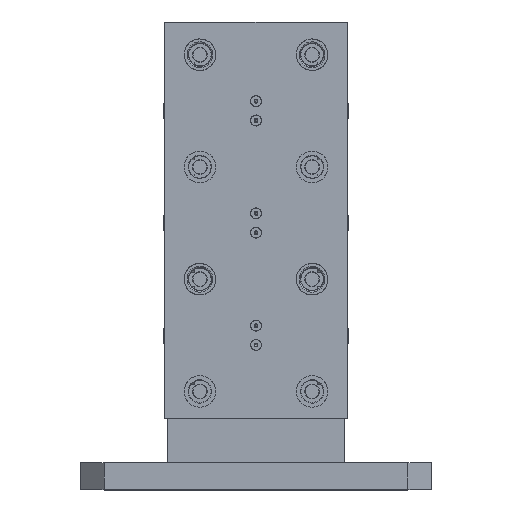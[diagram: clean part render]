
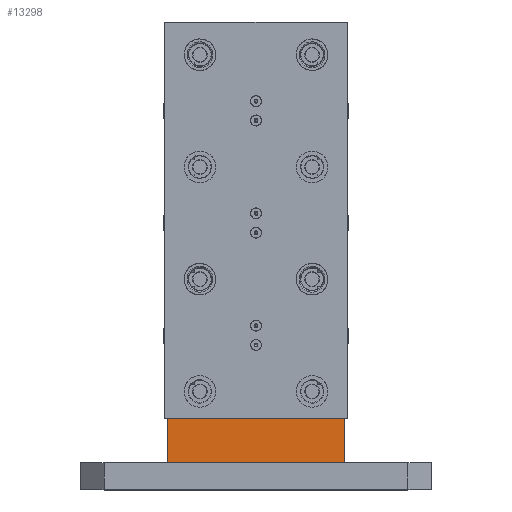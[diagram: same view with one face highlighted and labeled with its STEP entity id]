
A CAD part, top view. The second image highlights one B-rep face of the part: STEP entity #13298.
In plain terms, the highlighted planar face has unit normal (0, 0, 1).
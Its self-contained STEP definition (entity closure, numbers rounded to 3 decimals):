
#1751 = VECTOR ( 'NONE', #12497, 1000. ) ;
#2017 = EDGE_CURVE ( 'NONE', #6865, #3129, #19777, .T. ) ;
#2859 = CARTESIAN_POINT ( 'NONE',  ( 75.968, 0., 47.968 ) ) ;
#3129 = VERTEX_POINT ( 'NONE', #12748 ) ;
#3202 = ORIENTED_EDGE ( 'NONE', *, *, #6794, .F. ) ;
#4291 = ORIENTED_EDGE ( 'NONE', *, *, #12638, .F. ) ;
#5950 = CARTESIAN_POINT ( 'NONE',  ( 75.968, 38.1, 47.968 ) ) ;
#6794 = EDGE_CURVE ( 'NONE', #6865, #8107, #11727, .T. ) ;
#6865 = VERTEX_POINT ( 'NONE', #10806 ) ;
#8107 = VERTEX_POINT ( 'NONE', #2859 ) ;
#8999 = DIRECTION ( 'NONE',  ( 1., 0., 0. ) ) ;
#9531 = EDGE_CURVE ( 'NONE', #3129, #15419, #17078, .T. ) ;
#10155 = VECTOR ( 'NONE', #14795, 1000. ) ;
#10806 = CARTESIAN_POINT ( 'NONE',  ( 75.968, 38.1, 47.968 ) ) ;
#11727 = LINE ( 'NONE', #16516, #10155 ) ;
#12009 = DIRECTION ( 'NONE',  ( -1., 0., 0. ) ) ;
#12097 = CARTESIAN_POINT ( 'NONE',  ( -75.968, 38.1, 47.968 ) ) ;
#12266 = ORIENTED_EDGE ( 'NONE', *, *, #2017, .T. ) ;
#12497 = DIRECTION ( 'NONE',  ( 0., -1., 0. ) ) ;
#12638 = EDGE_CURVE ( 'NONE', #8107, #15419, #16288, .T. ) ;
#12748 = CARTESIAN_POINT ( 'NONE',  ( -75.968, 38.1, 47.968 ) ) ;
#13298 = ADVANCED_FACE ( 'NONE', ( #13617 ), #18305, .T. ) ;
#13311 = VECTOR ( 'NONE', #12009, 1000. ) ;
#13567 = AXIS2_PLACEMENT_3D ( 'NONE', #5950, #16774, #8999 ) ;
#13617 = FACE_OUTER_BOUND ( 'NONE', #15831, .T. ) ;
#14795 = DIRECTION ( 'NONE',  ( 0., -1., 0. ) ) ;
#14973 = DIRECTION ( 'NONE',  ( -1., 0., 0. ) ) ;
#15074 = CARTESIAN_POINT ( 'NONE',  ( 75.968, 0., 47.968 ) ) ;
#15419 = VERTEX_POINT ( 'NONE', #15696 ) ;
#15696 = CARTESIAN_POINT ( 'NONE',  ( -75.968, 0., 47.968 ) ) ;
#15831 = EDGE_LOOP ( 'NONE', ( #4291, #3202, #12266, #16502 ) ) ;
#16288 = LINE ( 'NONE', #15074, #20056 ) ;
#16502 = ORIENTED_EDGE ( 'NONE', *, *, #9531, .T. ) ;
#16516 = CARTESIAN_POINT ( 'NONE',  ( 75.968, 38.1, 47.968 ) ) ;
#16774 = DIRECTION ( 'NONE',  ( 0., 0., 1. ) ) ;
#17078 = LINE ( 'NONE', #12097, #1751 ) ;
#18234 = CARTESIAN_POINT ( 'NONE',  ( 75.968, 38.1, 47.968 ) ) ;
#18305 = PLANE ( 'NONE',  #13567 ) ;
#19777 = LINE ( 'NONE', #18234, #13311 ) ;
#20056 = VECTOR ( 'NONE', #14973, 1000. ) ;
